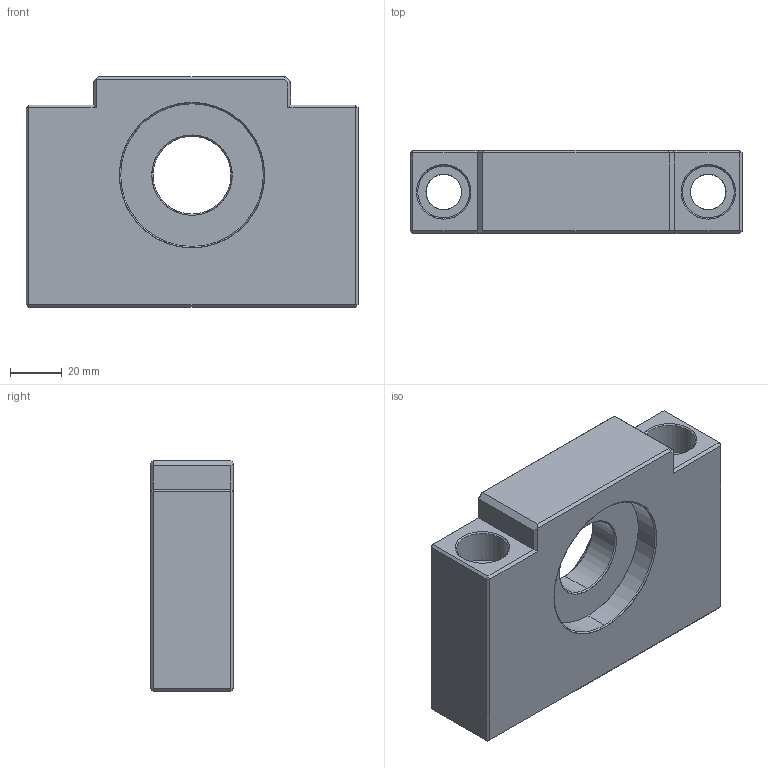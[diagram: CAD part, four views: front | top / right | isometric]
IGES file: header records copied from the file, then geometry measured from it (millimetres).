
Start section: SolidWorks IGES file using analytic representation for surfaces
Global section: file name: E:\同创达图纸\产品示意图\3D选型图\支撑座\BF系列\BF30.IGS; native system: SolidWorks 2012; preprocessor: SolidWorks 2012; author: gao; date: 130702.152507; units: millimetre
Bounding box: 128 x 32 x 89 mm (x, y, z)
Surface area: 44380.4 mm2 (no closed solid volume)
Topology: 0 solids, 0 shells, 77 faces, 936 edges, 936 vertices
Faces by surface type: bspline 47, revolution 30
